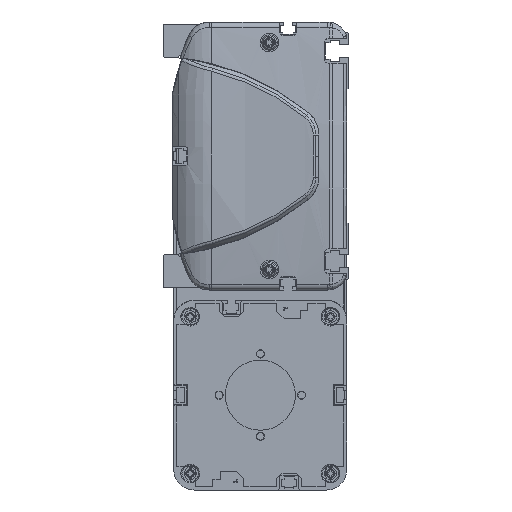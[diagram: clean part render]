
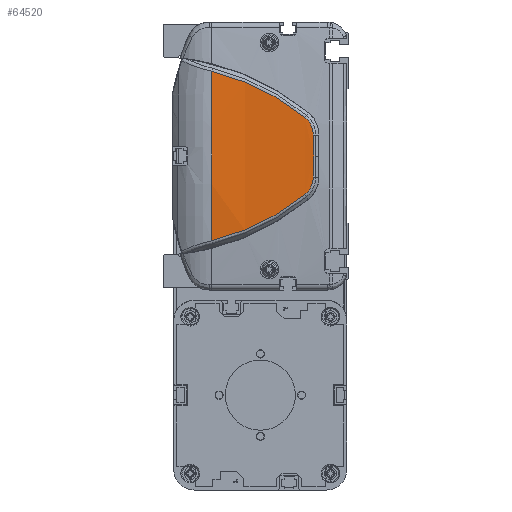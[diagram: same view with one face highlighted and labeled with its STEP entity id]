
A CAD part, left-side view. The second image highlights one B-rep face of the part: STEP entity #64520.
In plain terms, the highlighted cylindrical face has radius 500 mm (diameter 1000 mm), a partial arc.
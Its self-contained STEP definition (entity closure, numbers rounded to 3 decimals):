
#60783=CARTESIAN_POINT('',(-914.,66.962,0.));
#60784=DIRECTION('',(0.,-1.,0.));
#60785=DIRECTION('',(-0.997,0.,0.082));
#60786=AXIS2_PLACEMENT_3D('',#60783,#60784,#60785);
#61660=CARTESIAN_POINT('',(-1413.648,21.913,
-18.759));
#61661=CARTESIAN_POINT('',(-1413.449,28.504,
-24.058));
#61662=CARTESIAN_POINT('',(-1412.934,42.795,
-33.27));
#61663=CARTESIAN_POINT('',(-1412.471,58.756,
-39.127));
#61664=CARTESIAN_POINT('',(-1412.306,66.962,
-41.121));
#61666=CARTESIAN_POINT('',(-1412.306,66.962,
41.121));
#61667=CARTESIAN_POINT('',(-1412.471,58.756,
39.127));
#61668=CARTESIAN_POINT('',(-1412.934,42.795,
33.27));
#61669=CARTESIAN_POINT('',(-1413.449,28.504,
24.058));
#61670=CARTESIAN_POINT('',(-1413.648,21.913,
18.759));
#61672=CARTESIAN_POINT('',(-1413.648,21.913,
18.759));
#61673=CARTESIAN_POINT('',(-1413.686,20.635,
17.736));
#61674=CARTESIAN_POINT('',(-1413.779,18.536,
15.107));
#61675=CARTESIAN_POINT('',(-1413.863,17.752,
11.827));
#61676=CARTESIAN_POINT('',(-1413.896,17.724,
10.178));
#61678=CARTESIAN_POINT('',(-1413.896,17.724,
10.178));
#61679=CARTESIAN_POINT('',(-1413.92,17.707,
9.027));
#61680=CARTESIAN_POINT('',(-1413.959,17.667,
6.737));
#61681=CARTESIAN_POINT('',(-1413.993,17.58,
3.342));
#61682=CARTESIAN_POINT('',(-1414.,17.498,
1.109));
#61683=CARTESIAN_POINT('',(-1414.,17.449,
0.));
#61685=CARTESIAN_POINT('',(-1414.,17.449,
0.));
#61686=CARTESIAN_POINT('',(-1414.,17.498,
-1.109));
#61687=CARTESIAN_POINT('',(-1413.993,17.58,
-3.343));
#61688=CARTESIAN_POINT('',(-1413.959,17.667,
-6.736));
#61689=CARTESIAN_POINT('',(-1413.92,17.707,
-9.028));
#61690=CARTESIAN_POINT('',(-1413.896,17.724,
-10.18));
#61692=CARTESIAN_POINT('',(-1413.896,17.724,
-10.18));
#61693=CARTESIAN_POINT('',(-1413.863,17.752,
-11.828));
#61694=CARTESIAN_POINT('',(-1413.779,18.537,
-15.109));
#61695=CARTESIAN_POINT('',(-1413.686,20.635,
-17.736));
#61696=CARTESIAN_POINT('',(-1413.648,21.913,
-18.759));
#62344=VERTEX_POINT('',#61660);
#62345=VERTEX_POINT('',#61664);
#62346=CARTESIAN_POINT('',(-1412.306,66.962,
41.121));
#62347=VERTEX_POINT('',#62346);
#62348=VERTEX_POINT('',#61670);
#62349=VERTEX_POINT('',#61676);
#62350=VERTEX_POINT('',#61683);
#62351=VERTEX_POINT('',#61690);
#64501=CARTESIAN_POINT('',(-914.,8.606,0.));
#64502=DIRECTION('',(0.,1.,0.));
#64503=DIRECTION('',(1.,0.,0.));
#64504=AXIS2_PLACEMENT_3D('',#64501,#64502,#64503);
#64505=CYLINDRICAL_SURFACE('',#64504,500.);
#64507=ORIENTED_EDGE('',*,*,#64506,.T.);
#64508=ORIENTED_EDGE('',*,*,#63146,.F.);
#64510=ORIENTED_EDGE('',*,*,#64509,.T.);
#64512=ORIENTED_EDGE('',*,*,#64511,.T.);
#64514=ORIENTED_EDGE('',*,*,#64513,.T.);
#64516=ORIENTED_EDGE('',*,*,#64515,.T.);
#64517=ORIENTED_EDGE('',*,*,#64491,.T.);
#64518=EDGE_LOOP('',(#64507,#64508,#64510,#64512,#64514,#64516,#64517));
#64519=FACE_OUTER_BOUND('',#64518,.F.);
#64520=ADVANCED_FACE('',(#64519),#64505,.T.);
#60787=CIRCLE('',#60786,500.);
#61665=B_SPLINE_CURVE_WITH_KNOTS('',3,(#61660,#61661,#61662,#61663,#61664),
.UNSPECIFIED.,.F.,.F.,(4,1,4),(0.,0.5,1.),.UNSPECIFIED.);
#61671=B_SPLINE_CURVE_WITH_KNOTS('',3,(#61666,#61667,#61668,#61669,#61670),
.UNSPECIFIED.,.F.,.F.,(4,1,4),(0.,0.5,1.),.UNSPECIFIED.);
#61677=B_SPLINE_CURVE_WITH_KNOTS('',3,(#61672,#61673,#61674,#61675,#61676),
.UNSPECIFIED.,.F.,.F.,(4,1,4),(0.,0.5,1.),.UNSPECIFIED.);
#61684=B_SPLINE_CURVE_WITH_KNOTS('',3,(#61678,#61679,#61680,#61681,#61682,
#61683),.UNSPECIFIED.,.F.,.F.,(4,1,1,4),(0.,0.333,
0.667,1.),.UNSPECIFIED.);
#61691=B_SPLINE_CURVE_WITH_KNOTS('',3,(#61685,#61686,#61687,#61688,#61689,
#61690),.UNSPECIFIED.,.F.,.F.,(4,1,1,4),(0.,0.333,
0.667,1.),.UNSPECIFIED.);
#61697=B_SPLINE_CURVE_WITH_KNOTS('',3,(#61692,#61693,#61694,#61695,#61696),
.UNSPECIFIED.,.F.,.F.,(4,1,4),(0.,0.5,1.),.UNSPECIFIED.);
#63146=EDGE_CURVE('',#62347,#62345,#60787,.T.);
#64491=EDGE_CURVE('',#62351,#62344,#61697,.T.);
#64506=EDGE_CURVE('',#62344,#62345,#61665,.T.);
#64509=EDGE_CURVE('',#62347,#62348,#61671,.T.);
#64511=EDGE_CURVE('',#62348,#62349,#61677,.T.);
#64513=EDGE_CURVE('',#62349,#62350,#61684,.T.);
#64515=EDGE_CURVE('',#62350,#62351,#61691,.T.);
